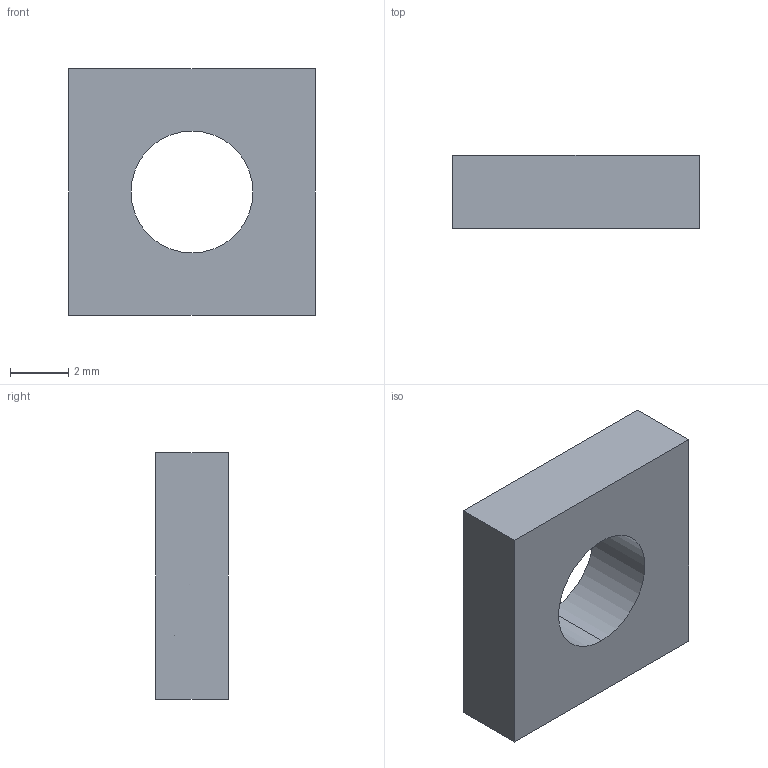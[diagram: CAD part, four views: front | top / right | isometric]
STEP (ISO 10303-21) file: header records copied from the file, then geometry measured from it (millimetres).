
FILE_DESCRIPTION (( 'STEP AP203' ), '1' );
FILE_NAME ('LIMA-SN5-62020.STEP', '2018-03-15T12:19:52', ( '' ), ( '' ), 'SwSTEP 2.0', 'SolidWorks 2013', '' );
FILE_SCHEMA (( 'CONFIG_CONTROL_DESIGN' ));
Length unit declared in the file: millimetre
Products named in the file (1): LIMA-SN5-62020
Bounding box: 8.5 x 2.5 x 8.5 mm (x, y, z)
Volume: 146 mm3; surface area: 234.8 mm2
Topology: 1 solids, 1 shells, 8 faces, 18 edges, 12 vertices
Faces by surface type: plane 6, cylinder 2
Entity records: 307 total; most frequent: DIRECTION 40, CARTESIAN_POINT 39, ORIENTED_EDGE 36, EDGE_CURVE 18, VECTOR 14, LINE 14, AXIS2_PLACEMENT_3D 13, VERTEX_POINT 12
